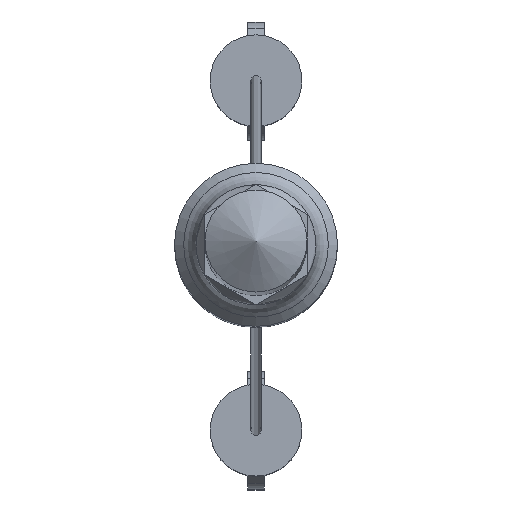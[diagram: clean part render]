
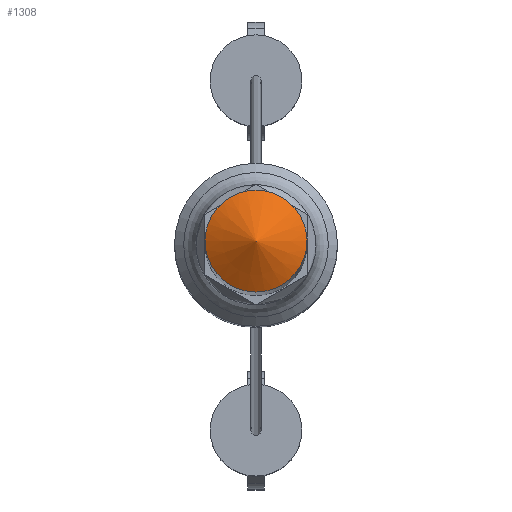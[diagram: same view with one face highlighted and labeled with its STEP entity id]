
A CAD part, top view. The second image highlights one B-rep face of the part: STEP entity #1308.
In plain terms, the highlighted conical face has half-angle 60 degrees and reference radius 2.5 mm.
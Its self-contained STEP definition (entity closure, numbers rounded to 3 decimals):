
#5 = CARTESIAN_POINT ( 'NONE',  ( 0., 0., 98.557 ) ) ;
#65 = DIRECTION ( 'NONE',  ( -1., 0., 0. ) ) ;
#210 = DIRECTION ( 'NONE',  ( 0., 0., -1. ) ) ;
#275 = DIRECTION ( 'NONE',  ( 1., 0., 0. ) ) ;
#466 = DIRECTION ( 'NONE',  ( 0., 0., 1. ) ) ;
#588 = CONICAL_SURFACE ( 'NONE', #958, 2.5, 1.047 ) ;
#742 = CARTESIAN_POINT ( 'NONE',  ( 2.5, 0., 98.557 ) ) ;
#756 = VERTEX_POINT ( 'NONE', #742 ) ;
#958 = AXIS2_PLACEMENT_3D ( 'NONE', #5, #210, #65 ) ;
#1032 = EDGE_LOOP ( 'NONE', ( #2193 ) ) ;
#1308 = ADVANCED_FACE ( 'NONE', ( #1695 ), #588, .T. ) ;
#1695 = FACE_OUTER_BOUND ( 'NONE', #1032, .T. ) ;
#1966 = AXIS2_PLACEMENT_3D ( 'NONE', #2353, #466, #275 ) ;
#2193 = ORIENTED_EDGE ( 'NONE', *, *, #2319, .T. ) ;
#2236 = CIRCLE ( 'NONE', #1966, 2.5 ) ;
#2319 = EDGE_CURVE ( 'NONE', #756, #756, #2236, .T. ) ;
#2353 = CARTESIAN_POINT ( 'NONE',  ( 0., 0., 98.557 ) ) ;
